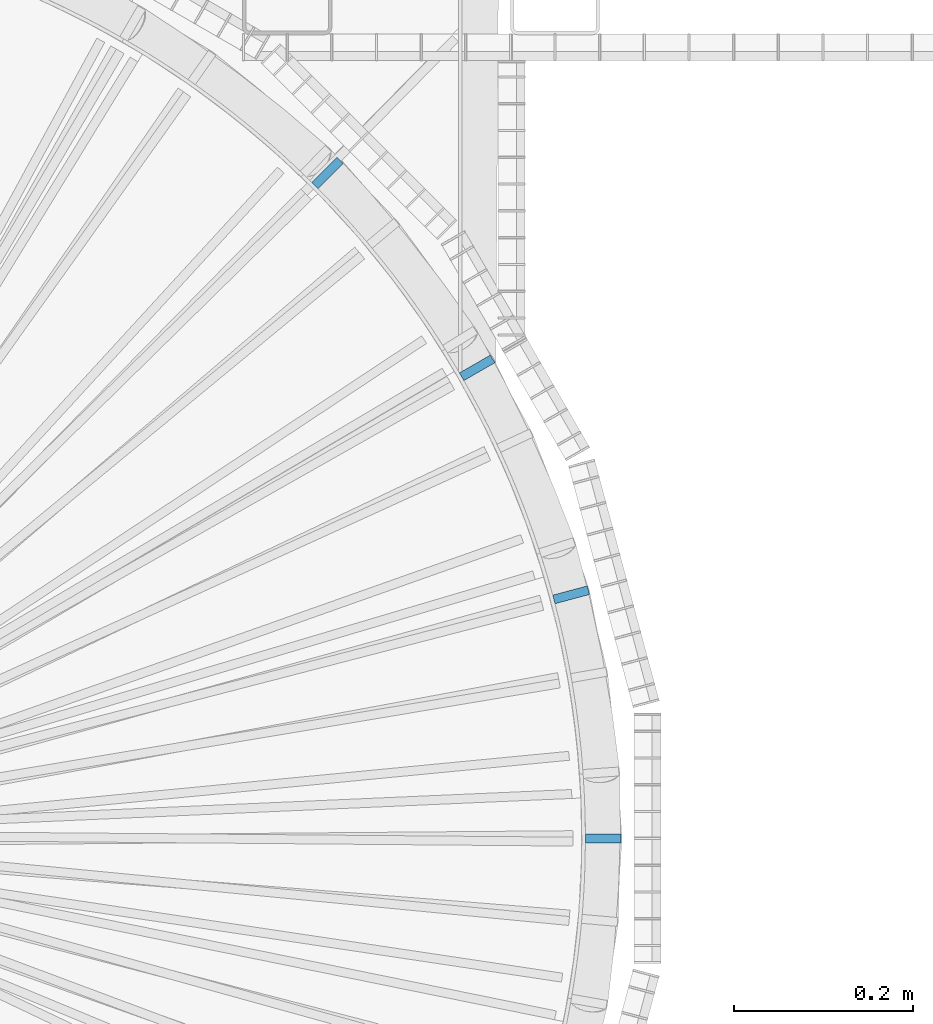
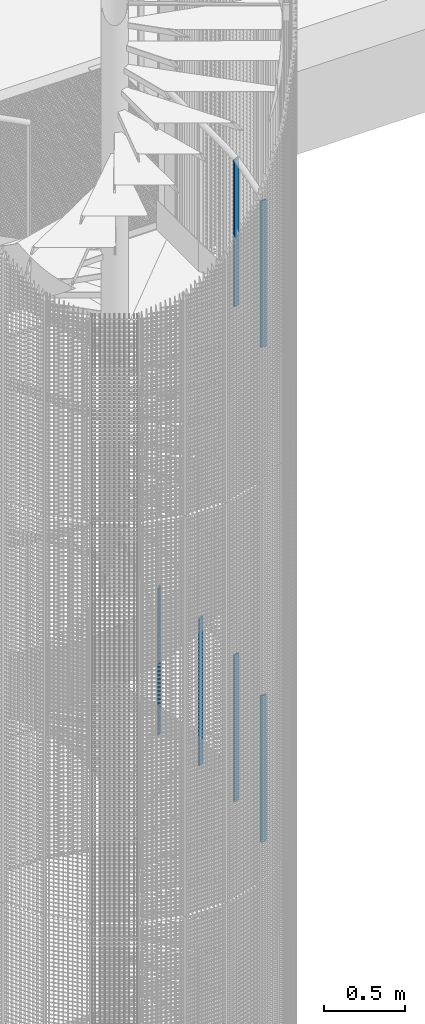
# One storey, part 18 of 1148: 6 columns, 6 elements without a shape of their own.
"""IFC2X3 building model written with IfcOpenShell, lengths in millimetres."""

from ifc_helpers import new_model, si_unit, frame, origin_with_axes, origin_2d_with_axis, place, context, subcontext, project, spatial, rectangle, extrude, material, type_object, element, aggregate, save


model = new_model("IFC2X3")

# Units and contexts
model_context = context("Model", 3, precision=1e-05, world=origin_with_axes())
body_context = subcontext(model_context, "Body", "Model", "MODEL_VIEW")
ifc_project = project(units=[si_unit("LENGTHUNIT", "METRE", prefix="MILLI"), si_unit("AREAUNIT", "SQUARE_METRE"), si_unit("VOLUMEUNIT", "CUBIC_METRE"), si_unit("MASSUNIT", "GRAM", prefix="KILO"), si_unit("TIMEUNIT", "SECOND"), si_unit("PLANEANGLEUNIT", "RADIAN"), si_unit("SOLIDANGLEUNIT", "STERADIAN"), si_unit("THERMODYNAMICTEMPERATUREUNIT", "DEGREE_CELSIUS"), si_unit("LUMINOUSINTENSITYUNIT", "LUMEN")], contexts=[model_context])

# Site, building, storey
site_placement = place(None, origin_with_axes())
site = spatial("IfcSite", under=ifc_project, at=site_placement, Name="Undefined", CompositionType="ELEMENT")
building_placement = place(site_placement, origin_with_axes())
building = spatial("IfcBuilding", under=site, at=building_placement, Name="Undefined", CompositionType="ELEMENT")
storey_placement = place(building_placement, origin_with_axes())
storey = spatial("IfcBuildingStorey", under=building, at=storey_placement, Name="Undefined", CompositionType="ELEMENT", Elevation=0.0)

# Assembly, column
assembly_1_placement = place(storey_placement, origin_with_axes())
assembly_1 = element("IfcElementAssembly", 1, at=assembly_1_placement, inside=storey, Name="MONTANT", AssemblyPlace="NOTDEFINED", PredefinedType="NOTDEFINED")
ifc_material = material(Name="STEEL/S235JR")
column_type = type_object("IfcColumnType", Name="PL10*40", PredefinedType="NOTDEFINED")
column_1_placement = place(assembly_1_placement, frame((912.790775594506, 527.000000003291, 2781.36), z_axis=(0.0, 0.0, 1.0), x_axis=(-0.866025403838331, -0.499999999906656, 0.0)))
column_1 = element("IfcColumn", 2, at=column_1_placement, type_object=column_type, material=ifc_material, Name="MONTANT", context=body_context, shape_type="SweptSolid", body=[
    extrude(rectangle(XDim=10.0, YDim=40.0, at=origin_2d_with_axis()), frame((0.0, 0.0, 1100.0), z_axis=(0.0, 0.0, -1.0), x_axis=(0.0, 1.0, 0.0)), (0.0, 0.0, 1.0), 1100.0),
])
aggregate(assembly_1, [column_1])

assembly_2_placement = place(storey_placement, origin_with_axes())
assembly_2 = element("IfcElementAssembly", 3, at=assembly_2_placement, inside=storey, Name="MONTANT", AssemblyPlace="NOTDEFINED", PredefinedType="NOTDEFINED")
column_2_placement = place(assembly_2_placement, frame((1054.00000000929, -4.09272615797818e-12, 2472.32), z_axis=(0.0, 0.0, 1.0), x_axis=(-1.0, 0.0, 0.0)))
column_2 = element("IfcColumn", 4, at=column_2_placement, type_object=column_type, material=ifc_material, Name="MONTANT", context=body_context, shape_type="SweptSolid", body=[
    extrude(rectangle(XDim=10.0, YDim=40.0, at=origin_2d_with_axis()), frame((0.0, 0.0, 1100.0), z_axis=(0.0, 0.0, -1.0), x_axis=(0.0, 1.0, 0.0)), (0.0, 0.0, 1.0), 1100.0),
])
aggregate(assembly_2, [column_2])

assembly_3_placement = place(storey_placement, origin_with_axes())
assembly_3 = element("IfcElementAssembly", 5, at=assembly_3_placement, inside=storey, Name="MONTANT", AssemblyPlace="NOTDEFINED", PredefinedType="NOTDEFINED")
column_3_placement = place(assembly_3_placement, frame((1018.08582091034, 272.795273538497, 2626.84), z_axis=(0.0, 0.0, 1.0), x_axis=(-0.965925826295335, -0.258819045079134, 0.0)))
column_3 = element("IfcColumn", 6, at=column_3_placement, type_object=column_type, material=ifc_material, Name="MONTANT", context=body_context, shape_type="SweptSolid", body=[
    extrude(rectangle(XDim=10.0, YDim=40.0, at=origin_2d_with_axis()), frame((0.0, 0.0, 1100.0), z_axis=(0.0, 0.0, -1.0), x_axis=(0.0, 1.0, 0.0)), (0.0, 0.0, 1.0), 1100.0),
])
aggregate(assembly_3, [column_3])

assembly_4_placement = place(storey_placement, origin_with_axes())
assembly_4 = element("IfcElementAssembly", 7, at=assembly_4_placement, inside=storey, Name="MONTANT", AssemblyPlace="NOTDEFINED", PredefinedType="NOTDEFINED")
column_4_placement = place(assembly_4_placement, frame((1018.08582091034, 272.795273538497, 6335.32000000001), z_axis=(0.0, 0.0, 1.0), x_axis=(-0.965925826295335, -0.258819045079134, 0.0)))
column_4 = element("IfcColumn", 8, at=column_4_placement, type_object=column_type, material=ifc_material, Name="MONTANT", context=body_context, shape_type="SweptSolid", body=[
    extrude(rectangle(XDim=10.0, YDim=40.0, at=origin_2d_with_axis()), frame((0.0, 0.0, 1100.0), z_axis=(0.0, 0.0, -1.0), x_axis=(0.0, 1.0, 0.0)), (0.0, 0.0, 1.0), 1100.0),
])
aggregate(assembly_4, [column_4])

assembly_5_placement = place(storey_placement, origin_with_axes())
assembly_5 = element("IfcElementAssembly", 9, at=assembly_5_placement, inside=storey, Name="MONTANT", AssemblyPlace="NOTDEFINED", PredefinedType="NOTDEFINED")
column_5_placement = place(assembly_5_placement, frame((745.290547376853, 745.290547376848, 2935.88), z_axis=(0.0, 0.0, 1.0), x_axis=(-0.70710678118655, -0.707106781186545, 0.0)))
column_5 = element("IfcColumn", 10, at=column_5_placement, type_object=column_type, material=ifc_material, Name="MONTANT", context=body_context, shape_type="SweptSolid", body=[
    extrude(rectangle(XDim=10.0, YDim=40.0, at=origin_2d_with_axis()), frame((0.0, 0.0, 1100.0), z_axis=(0.0, 0.0, -1.0), x_axis=(0.0, 1.0, 0.0)), (0.0, 0.0, 1.0), 1100.0),
])
aggregate(assembly_5, [column_5])

assembly_6_placement = place(storey_placement, origin_with_axes())
assembly_6 = element("IfcElementAssembly", 11, at=assembly_6_placement, inside=storey, Name="MONTANT", AssemblyPlace="NOTDEFINED", PredefinedType="NOTDEFINED")
column_6_placement = place(assembly_6_placement, frame((1054.00000000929, -4.09272615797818e-12, 6180.80000000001), z_axis=(0.0, 0.0, 1.0), x_axis=(-1.0, 0.0, 0.0)))
column_6 = element("IfcColumn", 12, at=column_6_placement, type_object=column_type, material=ifc_material, Name="MONTANT", context=body_context, shape_type="SweptSolid", body=[
    extrude(rectangle(XDim=10.0, YDim=40.0, at=origin_2d_with_axis()), frame((0.0, 0.0, 1100.0), z_axis=(0.0, 0.0, -1.0), x_axis=(0.0, 1.0, 0.0)), (0.0, 0.0, 1.0), 1100.0),
])
aggregate(assembly_6, [column_6])

save(model, "model.ifc")
